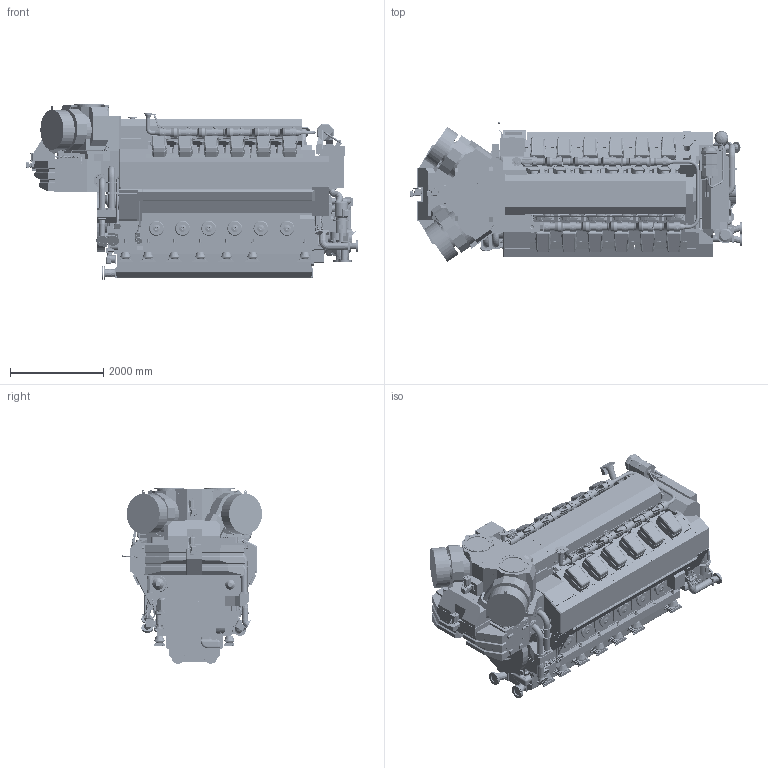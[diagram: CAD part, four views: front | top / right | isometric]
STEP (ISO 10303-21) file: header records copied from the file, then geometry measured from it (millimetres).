
FILE_DESCRIPTION(/* description */ (''),/* implementation_level */ '2;1');
FILE_NAME(/* name */ 'DAAF379813_A.stp',/* time_stamp */ '2021-12-13T12:30:21+02:00',/* author */ (''),/* organization */ (''),/* preprocessor_version */ 'ST-DEVELOPER v16.7',/* originating_system */ 'SIEMENS PLM Software NX 1915',/* authorisation */ '');
FILE_SCHEMA (('AUTOMOTIVE_DESIGN { 1 0 10303 214 3 1 1 1 }'));
Products named in the file (83): 001620194_-; 001240134_-; 001240134_A; PAAF523057_-; PAAF702810_-; PAAF243684_-; PAAF166694_-; PAAF078077_-; PAAF087123_-; PAAF245468_-; PAAF074394_-; PAAF852803_-; PAAF238216_-; PAAF990034_-; PAAF074412_-; PAAF245056_-; PAAF221967_-; PAAF991059_-; PAAF087117_-; PAAF565855_-; PAAF078239_-; PAAF313561_-; PAAF295070_-; PAAF087113_-; PAAF924067_-; PAAF247464_-; PABA034962_-; PAAF063634_-; PAAF304653_-; PAAF078522_-; PAAF087083_-; PAAF243370_-; PAAF078535_-; PABA036926_-; PAAF221638_-; PAAF313559_-; PAAF783146_-; PAAF783084_-; PAAF308706_-; PABA039759_-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
Assembly tree (170 placements, depth 4):
  PABA276695_-
    PABA276652_-
      PABA089687_-
      PAAF074479_-
      PAAF087154_-
      PABA274494_-
      PABA173946_-
      PAAF078607_-
      PAAF243367_-
      PAAF090571_-  x2
      PAAF243353_-  x2
      PAAF093851_-
      PABA001563_-
      PABA002426_-
      PABA002081_-
      PABA068010_-
      PABA068023_-  x13
      PABA068052_-  x10
      PABA001772_-
      PABA052478_-
      PABA065852_-
      PABA052425_-
      PABA066964_-
      PAAF245312_-
      PAAF064329_-
      PAAF064590_-
      PAAF195815_-
      PAAF063784_-
      PAAF078635_-
      PAAF785461_-
      PAAF077590_-
      PAAF078609_-
      PAAF093826_-
      PAAF924065_-
      PAAF078708_-
      PAAF078536_-
      PAAF087128_-
      PAAF308705_-
      PABA039601_-
      PABA039759_-
      PAAF308706_-
      PAAF783084_-
      PAAF783146_-
      PAAF313559_-
      PAAF221638_-
      PABA036926_-
      PAAF078535_-
      PAAF243370_-
      PAAF087083_-
      PAAF078522_-
      PAAF304653_-
      PAAF063634_-
      PABA034962_-
      PAAF247464_-
      PAAF924067_-
      PAAF087113_-
      PAAF295070_-
      PAAF313561_-
      PAAF078239_-
      PAAF565855_-
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Bounding box: 7119.67 x 2999.88 x 3763.51 mm (x, y, z)
Volume: 25734164596.1 mm3; surface area: 344264166.3 mm2
Topology: 477 solids, 625 shells, 20603 faces, 50395 edges, 32202 vertices
Faces by surface type: plane 10901, cylinder 5665, bspline 2592, torus 752, cone 543, extrusion 87, sphere 46, revolution 17
Full cylindrical faces by diameter (mm): 0.005 x8, 0.107 x1, 3.3 x12, 6 x17, 6.2 x112, 6.5 x12, 8 x47, 8.5 x1, 8.993 x3, 9 x42, 9.5 x1, 9.685 x1, 10 x33, 11 x37, 11.908 x1, 11.995 x1, 12 x74, 12.4 x1, 13.2 x4, 13.5 x5, 14 x92, 14.596 x1, 14.917 x1, 15 x41, 15.5 x4, 15.7 x4, 16 x54, 16.4 x2, 16.5 x3, 16.658 x1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
Entity records: 644011 total; most frequent: CARTESIAN_POINT 230116, ORIENTED_EDGE 83048, DIRECTION 81315, EDGE_CURVE 41524, AXIS2_PLACEMENT_3D 28237, VERTEX_POINT 27494, VECTOR 24824, LINE 24737
